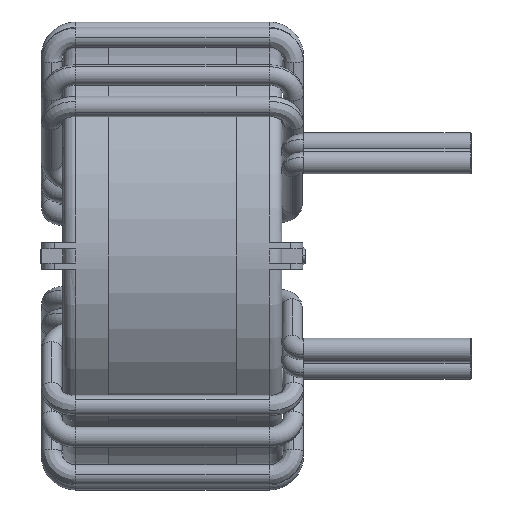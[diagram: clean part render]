
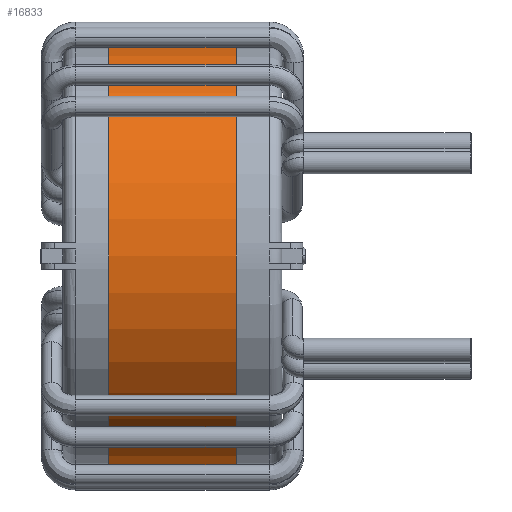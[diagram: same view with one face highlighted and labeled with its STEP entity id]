
A CAD part, left-side view. The second image highlights one B-rep face of the part: STEP entity #16833.
In plain terms, the highlighted cylindrical face has radius 16.68 mm (diameter 33.36 mm), a partial arc.
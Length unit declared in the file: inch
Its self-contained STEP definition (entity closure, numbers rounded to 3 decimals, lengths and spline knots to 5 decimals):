
#216 = ORIENTED_EDGE ( 'NONE', *, *, #16382, .T. ) ;
#1457 = ORIENTED_EDGE ( 'NONE', *, *, #3568, .F. ) ;
#2314 = DIRECTION ( 'NONE',  ( 0., -1., 0. ) ) ;
#2657 = LINE ( 'NONE', #17275, #20869 ) ;
#2931 = AXIS2_PLACEMENT_3D ( 'NONE', #16635, #4781, #8251 ) ;
#3568 = EDGE_CURVE ( 'NONE', #17983, #21534, #5213, .T. ) ;
#3573 = EDGE_LOOP ( 'NONE', ( #1457, #7491, #12582, #216 ) ) ;
#3962 = AXIS2_PLACEMENT_3D ( 'NONE', #4414, #7213, #8924 ) ;
#4414 = CARTESIAN_POINT ( 'NONE',  ( 0., 0.19685, 0. ) ) ;
#4781 = DIRECTION ( 'NONE',  ( 0., 1., 0. ) ) ;
#4876 = DIRECTION ( 'NONE',  ( 0., 0., 1. ) ) ;
#4930 = DIRECTION ( 'NONE',  ( 0., 1., 0. ) ) ;
#5213 = LINE ( 'NONE', #14997, #21127 ) ;
#6283 = VERTEX_POINT ( 'NONE', #6989 ) ;
#6508 = FACE_OUTER_BOUND ( 'NONE', #3573, .T. ) ;
#6989 = CARTESIAN_POINT ( 'NONE',  ( 0., -0.19685, -0.65669 ) ) ;
#7213 = DIRECTION ( 'NONE',  ( 0., -1., 0. ) ) ;
#7336 = VERTEX_POINT ( 'NONE', #15173 ) ;
#7491 = ORIENTED_EDGE ( 'NONE', *, *, #19746, .F. ) ;
#8078 = EDGE_CURVE ( 'NONE', #7336, #6283, #2657, .T. ) ;
#8251 = DIRECTION ( 'NONE',  ( 0., 0., 1. ) ) ;
#8833 = CARTESIAN_POINT ( 'NONE',  ( 0., -0.19685, 0.65669 ) ) ;
#8924 = DIRECTION ( 'NONE',  ( 0., 0., -1. ) ) ;
#12582 = ORIENTED_EDGE ( 'NONE', *, *, #8078, .T. ) ;
#12900 = CARTESIAN_POINT ( 'NONE',  ( 0., 0.19685, 0. ) ) ;
#12934 = CARTESIAN_POINT ( 'NONE',  ( 0., 0.19685, 0.65669 ) ) ;
#13578 = DIRECTION ( 'NONE',  ( 0., -1., 0. ) ) ;
#13836 = CYLINDRICAL_SURFACE ( 'NONE', #3962, 0.65669 ) ;
#14997 = CARTESIAN_POINT ( 'NONE',  ( 0., 0.19685, 0.65669 ) ) ;
#15173 = CARTESIAN_POINT ( 'NONE',  ( 0., 0.19685, -0.65669 ) ) ;
#16382 = EDGE_CURVE ( 'NONE', #6283, #21534, #21659, .T. ) ;
#16635 = CARTESIAN_POINT ( 'NONE',  ( 0., -0.19685, 0. ) ) ;
#16833 = ADVANCED_FACE ( 'NONE', ( #6508 ), #13836, .T. ) ;
#17275 = CARTESIAN_POINT ( 'NONE',  ( 0., 0.19685, -0.65669 ) ) ;
#17983 = VERTEX_POINT ( 'NONE', #12934 ) ;
#18175 = AXIS2_PLACEMENT_3D ( 'NONE', #12900, #4930, #4876 ) ;
#18875 = CIRCLE ( 'NONE', #18175, 0.65669 ) ;
#19746 = EDGE_CURVE ( 'NONE', #7336, #17983, #18875, .T. ) ;
#20869 = VECTOR ( 'NONE', #2314, 39.37008 ) ;
#21127 = VECTOR ( 'NONE', #13578, 39.37008 ) ;
#21534 = VERTEX_POINT ( 'NONE', #8833 ) ;
#21659 = CIRCLE ( 'NONE', #2931, 0.65669 ) ;
